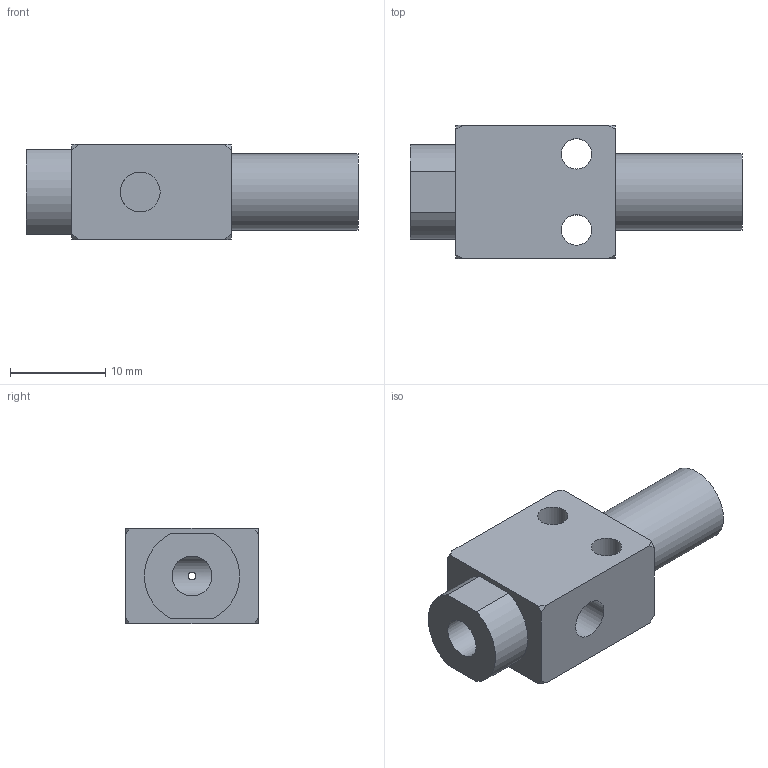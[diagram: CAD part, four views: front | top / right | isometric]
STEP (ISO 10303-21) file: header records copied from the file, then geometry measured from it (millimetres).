
FILE_DESCRIPTION (( 'STEP AP214' ), '1' );
FILE_NAME ('SSV-2.5.STEP', '2025-02-04T13:11:33', ( '' ), ( '' ), 'SwSTEP 2.0', 'SolidWorks 2018', '' );
FILE_SCHEMA (( 'AUTOMOTIVE_DESIGN' ));
Length unit declared in the file: millimetre
Products named in the file (1): SSV-2.5
Bounding box: 34.9 x 14 x 10 mm (x, y, z)
Volume: 2732.5 mm3; surface area: 2194.7 mm2
Topology: 1 solids, 1 shells, 33 faces, 79 edges, 51 vertices
Faces by surface type: plane 14, cylinder 11, cone 8
Full cylindrical faces by diameter (mm): 0.837 x1, 3.2 x2, 4.2 x3, 8 x1
Entity records: 1055 total; most frequent: CARTESIAN_POINT 239, DIRECTION 142, ORIENTED_EDGE 142, EDGE_CURVE 71, AXIS2_PLACEMENT_3D 60, EDGE_LOOP 52, VERTEX_POINT 51, FACE_OUTER_BOUND 40
